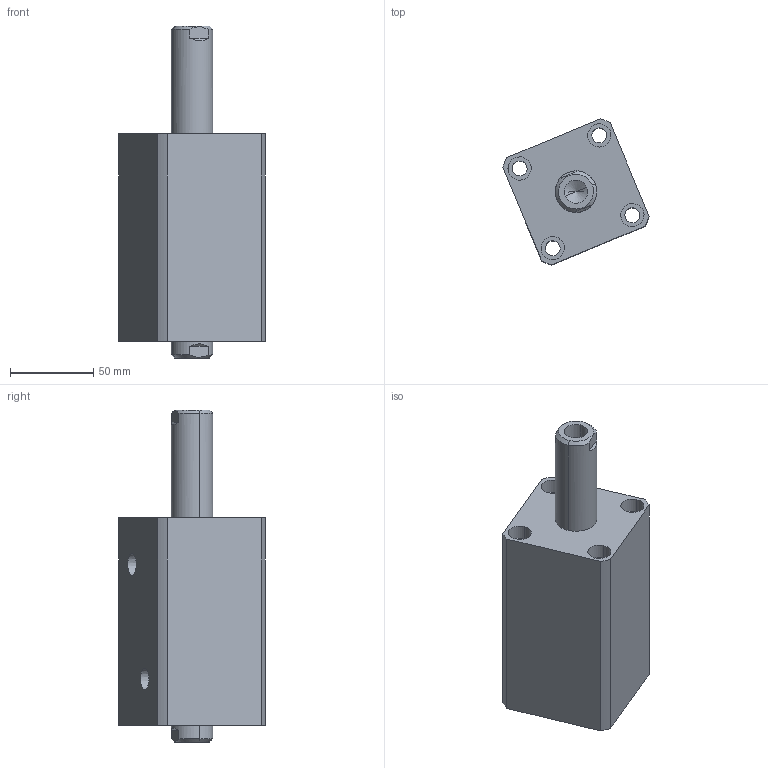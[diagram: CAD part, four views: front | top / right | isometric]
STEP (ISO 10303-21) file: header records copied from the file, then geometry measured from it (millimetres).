
FILE_DESCRIPTION (( 'STEP AP214' ), '1' );
FILE_NAME ('chtb-sw40x55n_asm.STEP', '2018-06-08T12:04:15', ( 'Windows' ), ( 'Microsoft' ), 'SwSTEP 2.0', 'SolidWorks 2015', '' );
FILE_SCHEMA (( 'AUTOMOTIVE_DESIGN' ));
Length unit declared in the file: millimetre
Products named in the file (4): CHTB-SW40X55NHSG; CHTB-SW40X55NBT; CHTB-SD40QG; chtb-sw40x55n_asm
Assembly tree (3 placements, depth 2):
  chtb-sw40x55n_asm
    CHTB-SD40QG
    CHTB-SW40X55NBT
    CHTB-SW40X55NHSG
Bounding box: 88.11 x 88.11 x 200 mm (x, y, z)
Volume: 551534.5 mm3; surface area: 104652.4 mm2
Topology: 3 solids, 3 shells, 167 faces, 429 edges, 282 vertices
Faces by surface type: cylinder 84, plane 40, cone 17, bspline 14, torus 12
Entity records: 10325 total; most frequent: CARTESIAN_POINT 6131, ORIENTED_EDGE 838, DIRECTION 822, EDGE_CURVE 419, AXIS2_PLACEMENT_3D 348, VERTEX_POINT 282, EDGE_LOOP 207, CIRCLE 189
